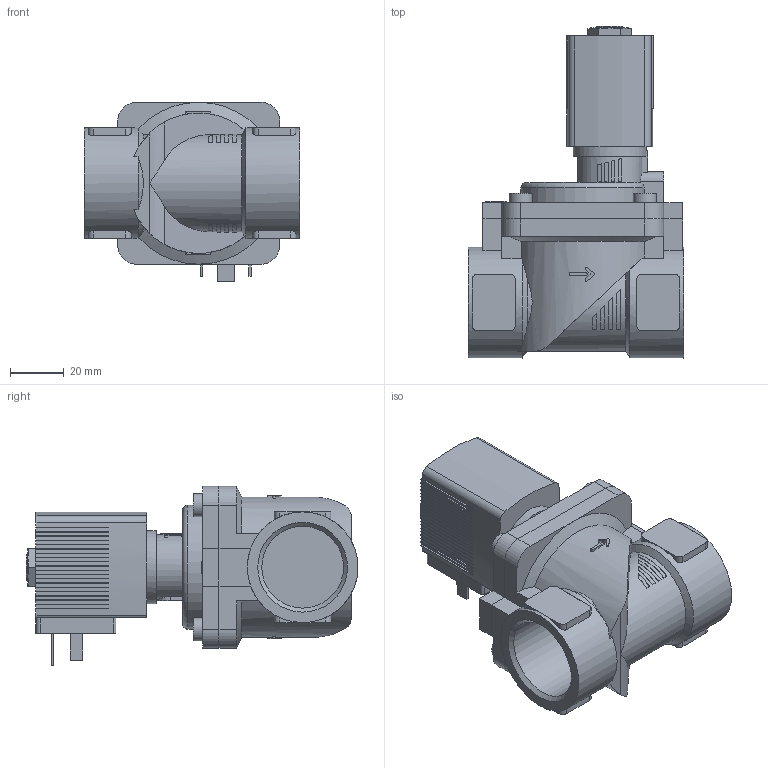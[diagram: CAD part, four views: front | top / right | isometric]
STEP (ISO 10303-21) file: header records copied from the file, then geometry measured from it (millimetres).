
FILE_DESCRIPTION(/* description */ ('STEP AP214'),/* implementation_level */ '2;1');
FILE_NAME(/* name */ '6281-241817-2_2-Way_Solenoid_Valve__Servo-assisted__General_Purpose',/* time_stamp */ '2024-05-20T12:36:43+02:00',/* author */ ('License CC BY-ND 4.0'),/* organization */ ('CADENAS'),/* preprocessor_version */ 'ST-DEVELOPER v19.3',/* originating_system */ 'PARTsolutions',/* authorisation */ ' ');
FILE_SCHEMA (('AUTOMOTIVE_DESIGN {1 0 10303 214 3 1 1}'));
Length unit declared in the file: millimetre
Products named in the file (4): 6281-241817-2/2-Way Solenoid Valve, Servo-assisted, General Purpose; 5281ev200VA2/2-Wege-Magnetventil mit Servomembran-Deckel   ; 6213-20G1MS-Gehaeuse-; AC10ex-5OO-Plan-Coil
Assembly tree (3 placements, depth 2):
  6281-241817-2/2-Way Solenoid Valve, Servo-assisted, General Purpose
    5281ev200VA2/2-Wege-Magnetventil mit Servomembran-Deckel   
    6213-20G1MS-Gehaeuse-
    AC10ex-5OO-Plan-Coil
Bounding box: 80 x 123 x 66.5 mm (x, y, z)
Volume: 213039.2 mm3; surface area: 47006.5 mm2
Topology: 3 solids, 3 shells, 534 faces, 1465 edges, 971 vertices
Faces by surface type: plane 432, cylinder 86, cone 15, torus 1
Full cylindrical faces by diameter (mm): 2.013 x1, 8.5 x4, 9.74 x1, 27 x1, 30.291 x2, 41 x2
Entity records: 19529 total; most frequent: CARTESIAN_POINT 3211, ORIENTED_EDGE 2884, DIRECTION 2766, EDGE_CURVE 1442, LINE 1058, VECTOR 1058, VERTEX_POINT 963, AXIS2_PLACEMENT_3D 854
